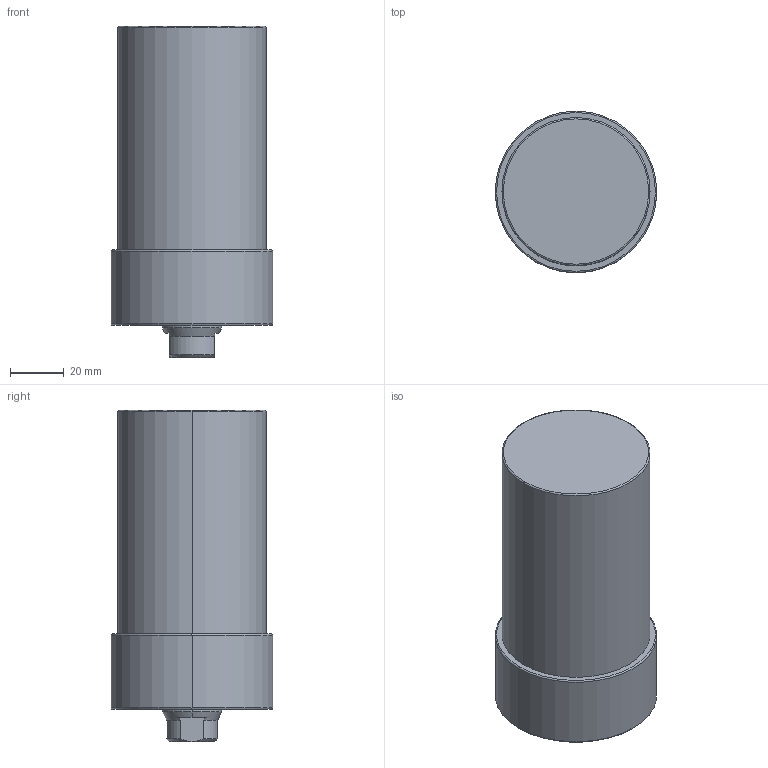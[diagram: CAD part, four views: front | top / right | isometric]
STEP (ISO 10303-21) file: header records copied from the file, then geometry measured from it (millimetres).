
FILE_DESCRIPTION (( 'STEP AP203' ), '1' );
FILE_NAME ('CLLU055-CA-070.STEP', '2017-05-12T11:13:44', ( '' ), ( '' ), 'SwSTEP 2.0', 'SolidWorks 2015', '' );
FILE_SCHEMA (( 'CONFIG_CONTROL_DESIGN' ));
Length unit declared in the file: millimetre
Products named in the file (1): CLLU055-CA-070
Bounding box: 60 x 60 x 123 mm (x, y, z)
Volume: 276694.9 mm3; surface area: 27664 mm2
Topology: 1 solids, 1 shells, 62 faces, 138 edges, 77 vertices
Faces by surface type: cone 24, cylinder 22, plane 10, torus 6
Entity records: 1745 total; most frequent: DIRECTION 318, CARTESIAN_POINT 308, ORIENTED_EDGE 256, AXIS2_PLACEMENT_3D 135, EDGE_CURVE 128, VERTEX_POINT 77, CIRCLE 72, EDGE_LOOP 71
